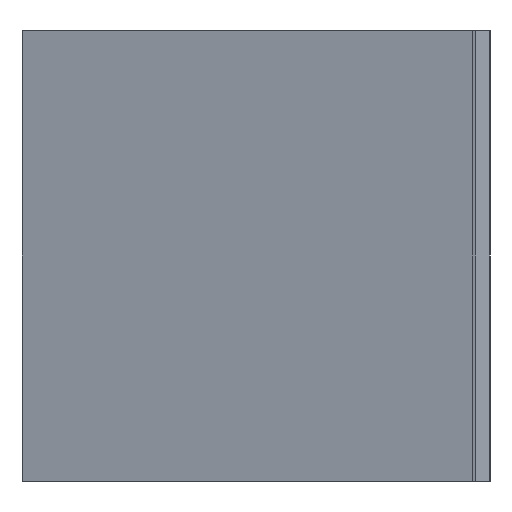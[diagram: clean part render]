
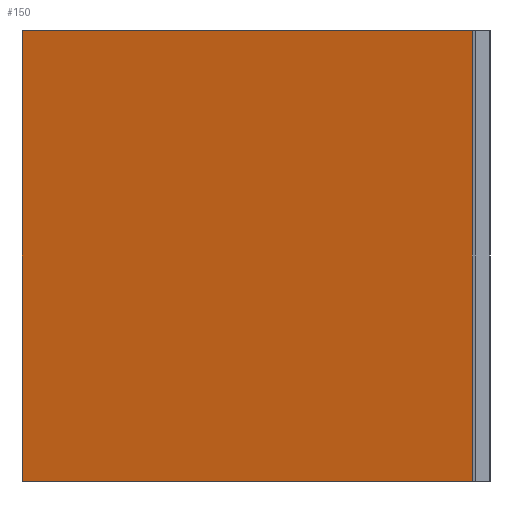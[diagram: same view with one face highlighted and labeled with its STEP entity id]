
A CAD part, left-side view. The second image highlights one B-rep face of the part: STEP entity #150.
In plain terms, the highlighted planar face has unit normal (0.966, -0.261, 0).
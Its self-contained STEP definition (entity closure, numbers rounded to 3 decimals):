
#98=CARTESIAN_POINT('Vertex',(20.,0.,0.)) ;
#101=CARTESIAN_POINT('Line Origine',(20.,0.,63.)) ;
#105=CARTESIAN_POINT('Vertex',(20.,0.,126.)) ;
#120=CARTESIAN_POINT('Axis2P3D Location',(20.,0.,0.)) ;
#125=CARTESIAN_POINT('Line Origine',(37.,63.,0.)) ;
#129=CARTESIAN_POINT('Vertex',(54.,126.,0.)) ;
#132=CARTESIAN_POINT('Line Origine',(54.,126.,63.)) ;
#136=CARTESIAN_POINT('Vertex',(54.,126.,126.)) ;
#139=CARTESIAN_POINT('Line Origine',(37.,63.,126.)) ;
#102=DIRECTION('Vector Direction',(0.,0.,1.)) ;
#121=DIRECTION('Axis2P3D Direction',(0.965,-0.261,0.)) ;
#122=DIRECTION('Axis2P3D XDirection',(0.261,0.965,0.)) ;
#126=DIRECTION('Vector Direction',(0.261,0.965,0.)) ;
#133=DIRECTION('Vector Direction',(0.,0.,1.)) ;
#140=DIRECTION('Vector Direction',(0.261,0.965,0.)) ;
#123=AXIS2_PLACEMENT_3D('Plane Axis2P3D',#120,#121,#122) ;
#145=ORIENTED_EDGE('',*,*,#107,.F.) ;
#146=ORIENTED_EDGE('',*,*,#131,.T.) ;
#147=ORIENTED_EDGE('',*,*,#138,.T.) ;
#148=ORIENTED_EDGE('',*,*,#143,.F.) ;
#103=VECTOR('Line Direction',#102,1.) ;
#127=VECTOR('Line Direction',#126,1.) ;
#134=VECTOR('Line Direction',#133,1.) ;
#141=VECTOR('Line Direction',#140,1.) ;
#150=ADVANCED_FACE('Extrude.1',(#149),#124,.T.) ;
#107=EDGE_CURVE('',#99,#106,#104,.T.) ;
#131=EDGE_CURVE('',#99,#130,#128,.T.) ;
#138=EDGE_CURVE('',#130,#137,#135,.T.) ;
#143=EDGE_CURVE('',#106,#137,#142,.T.) ;
#144=EDGE_LOOP('',(#145,#146,#147,#148)) ;
#149=FACE_OUTER_BOUND('',#144,.T.) ;
#104=LINE('Line',#101,#103) ;
#128=LINE('Line',#125,#127) ;
#135=LINE('Line',#132,#134) ;
#142=LINE('Line',#139,#141) ;
#124=PLANE('',#123) ;
#99=VERTEX_POINT('',#98) ;
#106=VERTEX_POINT('',#105) ;
#130=VERTEX_POINT('',#129) ;
#137=VERTEX_POINT('',#136) ;
